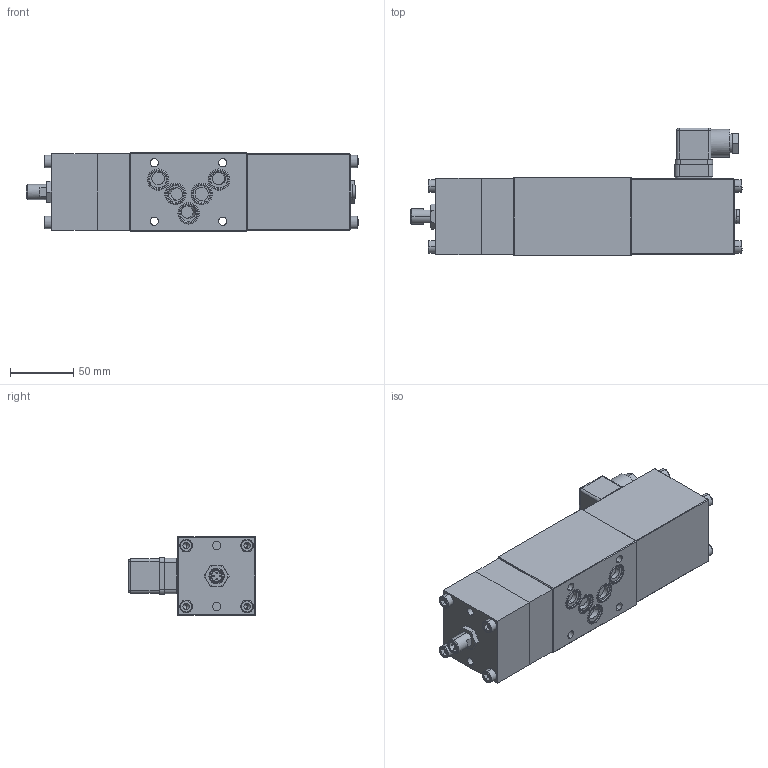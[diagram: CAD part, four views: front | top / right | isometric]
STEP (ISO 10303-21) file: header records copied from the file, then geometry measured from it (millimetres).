
FILE_DESCRIPTION (( 'STEP AP214' ), '1' );
FILE_NAME ('A.32100b-Z482, Z603, Z680.STEP', '2017-03-08T06:56:10', ( '' ), ( '' ), 'SwSTEP 2.0', 'SolidWorks 2016', '' );
FILE_SCHEMA (( 'AUTOMOTIVE_DESIGN' ));
Length unit declared in the file: millimetre
Products named in the file (1): A.32100b-Z482, Z603, Z680
Bounding box: 261.96 x 100.8 x 62 mm (x, y, z)
Volume: 889798.6 mm3; surface area: 114204.4 mm2
Topology: 12 solids, 23 shells, 953 faces, 2337 edges, 1469 vertices
Faces by surface type: plane 505, cylinder 267, cone 87, bspline 62, torus 32
Entity records: 40324 total; most frequent: CARTESIAN_POINT 7445, DIRECTION 4690, ORIENTED_EDGE 4618, EDGE_CURVE 2309, AXIS2_PLACEMENT_3D 1677, VERTEX_POINT 1469, VECTOR 1336, LINE 1336
